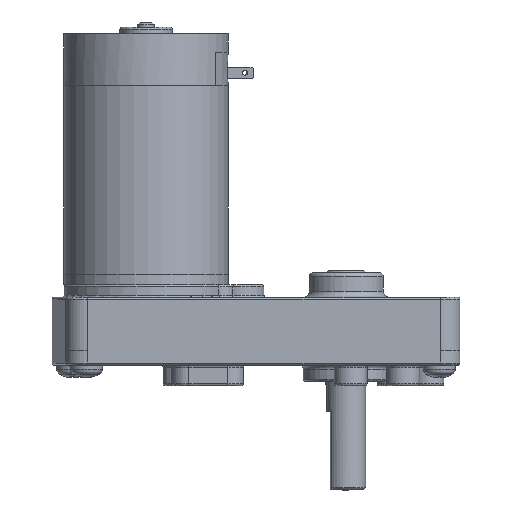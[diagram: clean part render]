
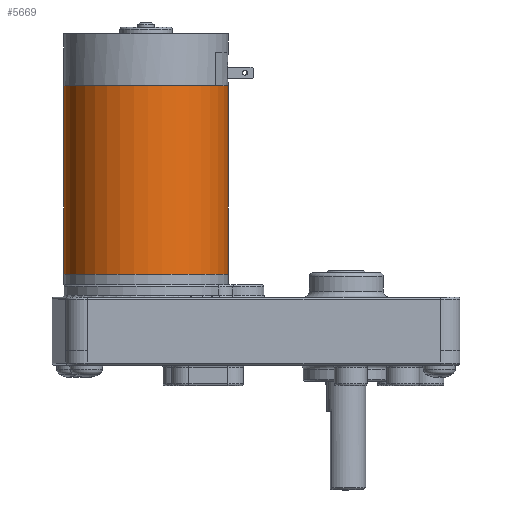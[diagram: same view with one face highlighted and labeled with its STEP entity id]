
A CAD part, left-side view. The second image highlights one B-rep face of the part: STEP entity #5669.
In plain terms, the highlighted cylindrical face has radius 20 mm (diameter 40 mm), a full revolution.
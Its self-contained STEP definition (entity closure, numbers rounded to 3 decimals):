
#1075=FACE_BOUND('',#2066,.T.);
#1465=FACE_OUTER_BOUND('',#2065,.T.);
#2065=EDGE_LOOP('',(#5174));
#2066=EDGE_LOOP('',(#5175));
#2485=CIRCLE('',#6490,20.);
#2486=CIRCLE('',#6491,20.);
#3012=VERTEX_POINT('',#10762);
#3013=VERTEX_POINT('',#10764);
#3734=EDGE_CURVE('',#3012,#3012,#2485,.T.);
#3735=EDGE_CURVE('',#3013,#3013,#2486,.T.);
#5174=ORIENTED_EDGE('',*,*,#3734,.T.);
#5175=ORIENTED_EDGE('',*,*,#3735,.F.);
#5281=CYLINDRICAL_SURFACE('',#6489,20.);
#5669=ADVANCED_FACE('',(#1465,#1075),#5281,.T.);
#6489=AXIS2_PLACEMENT_3D('',#10761,#8292,#8293);
#6490=AXIS2_PLACEMENT_3D('',#10763,#8294,#8295);
#6491=AXIS2_PLACEMENT_3D('',#10765,#8296,#8297);
#8292=DIRECTION('center_axis',(0.,0.,1.));
#8293=DIRECTION('ref_axis',(-1.,0.,0.));
#8294=DIRECTION('center_axis',(0.,0.,-1.));
#8295=DIRECTION('ref_axis',(-1.,0.,0.));
#8296=DIRECTION('center_axis',(0.,0.,-1.));
#8297=DIRECTION('ref_axis',(-1.,0.,0.));
#10761=CARTESIAN_POINT('Origin',(0.,0.,0.));
#10762=CARTESIAN_POINT('',(20.,0.,45.9));
#10763=CARTESIAN_POINT('Origin',(0.,0.,45.9));
#10764=CARTESIAN_POINT('',(20.,0.,0.));
#10765=CARTESIAN_POINT('Origin',(0.,0.,0.));
